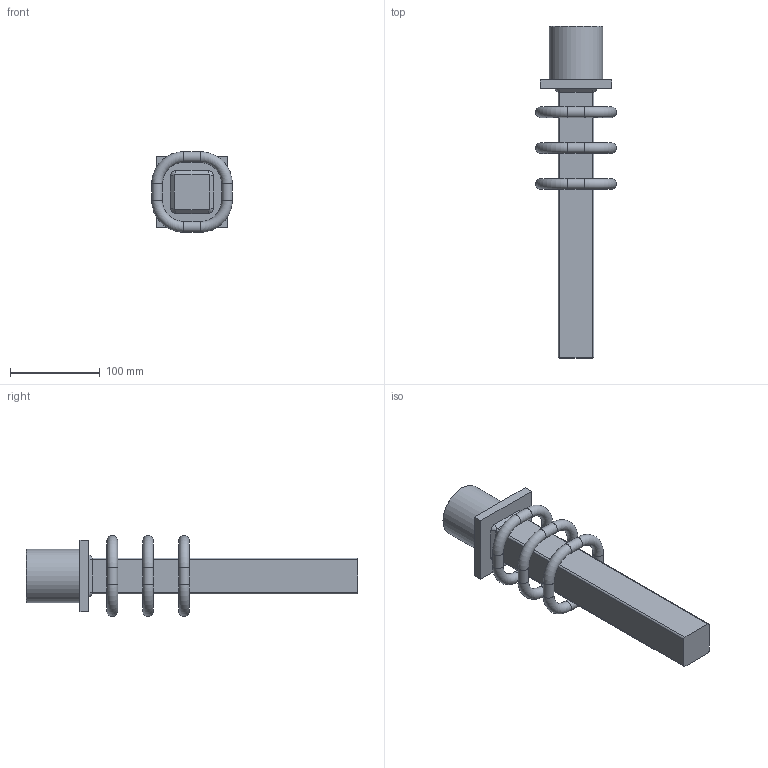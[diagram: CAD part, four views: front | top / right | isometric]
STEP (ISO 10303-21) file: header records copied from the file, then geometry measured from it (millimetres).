
FILE_DESCRIPTION(/* description */ (''),/* implementation_level */ '2;1');
FILE_NAME(/* name */ 'Z:\04 Publications\05 Give-out\BBR\6_3D_Models\BBR VT CONA CMB\01 x 106\BBR VT CONA CMB SP_01 x 106.stp',/* time_stamp */ '2017-05-09T11:37:47+02:00',/* author */ ('IP'),/* organization */ (''),/* preprocessor_version */ 'ST-DEVELOPER v16.1',/* originating_system */ 'Autodesk Inventor 2016',/* authorisation */ '');
FILE_SCHEMA (('AUTOMOTIVE_DESIGN { 1 0 10303 214 3 1 1 }'));
Length unit declared in the file: millimetre
Products named in the file (1): BBR VT CONA CMB SP_01 x 106
Bounding box: 90 x 370.1 x 90 mm (x, y, z)
Volume: 802289.2 mm3; surface area: 103539.7 mm2
Topology: 4 solids, 4 shells, 683 faces, 1826 edges, 1206 vertices
Faces by surface type: plane 339, bspline 309, cylinder 17, torus 12, cone 6
Full cylindrical faces by diameter (mm): 12 x12, 60 x1
Entity records: 23277 total; most frequent: CARTESIAN_POINT 7706, ORIENTED_EDGE 3598, DIRECTION 1971, EDGE_CURVE 1799, VERTEX_POINT 1206, LINE 1141, VECTOR 1141, EDGE_LOOP 771
